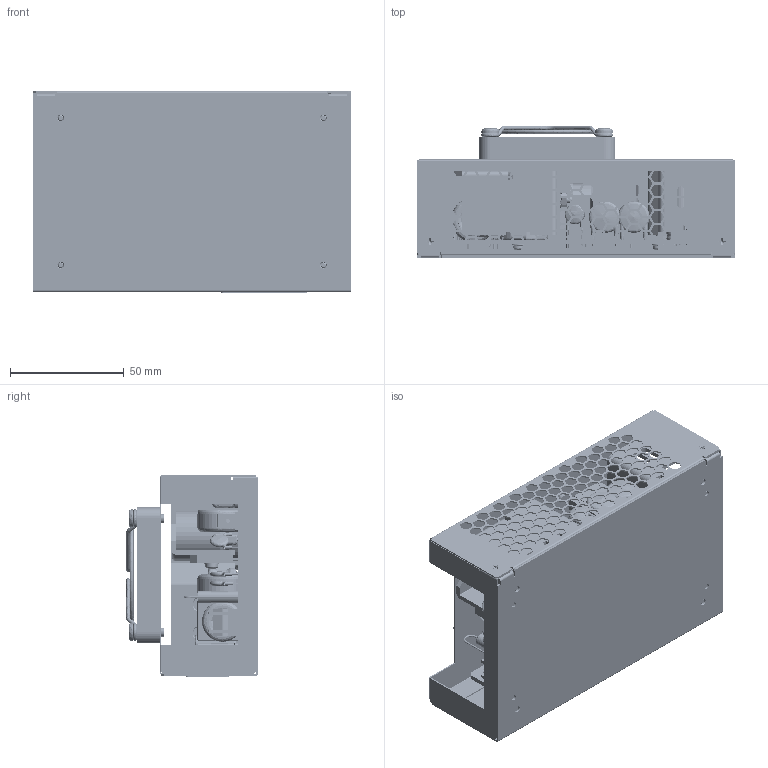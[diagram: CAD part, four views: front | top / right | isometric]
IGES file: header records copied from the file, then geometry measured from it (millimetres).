
Start section: SolidWorks IGES file using analytic representation for surfaces
Global section: file name: G:\USER\Common for ENG DEPT\TO Jayesh Patel\2013\GCS180-TF\GCS180 TF 01.IGS; native system: SolidWorks 2012; preprocessor: SolidWorks 2012; author: apangili; date: 141218.133719; units: inch
Bounding box: 139.7 x 57.88 x 88.6 mm (x, y, z)
Surface area: 198130.8 mm2 (no closed solid volume)
Topology: 0 solids, 0 shells, 5362 faces, 54547 edges, 54463 vertices
Faces by surface type: bspline 3516, revolution 1846
